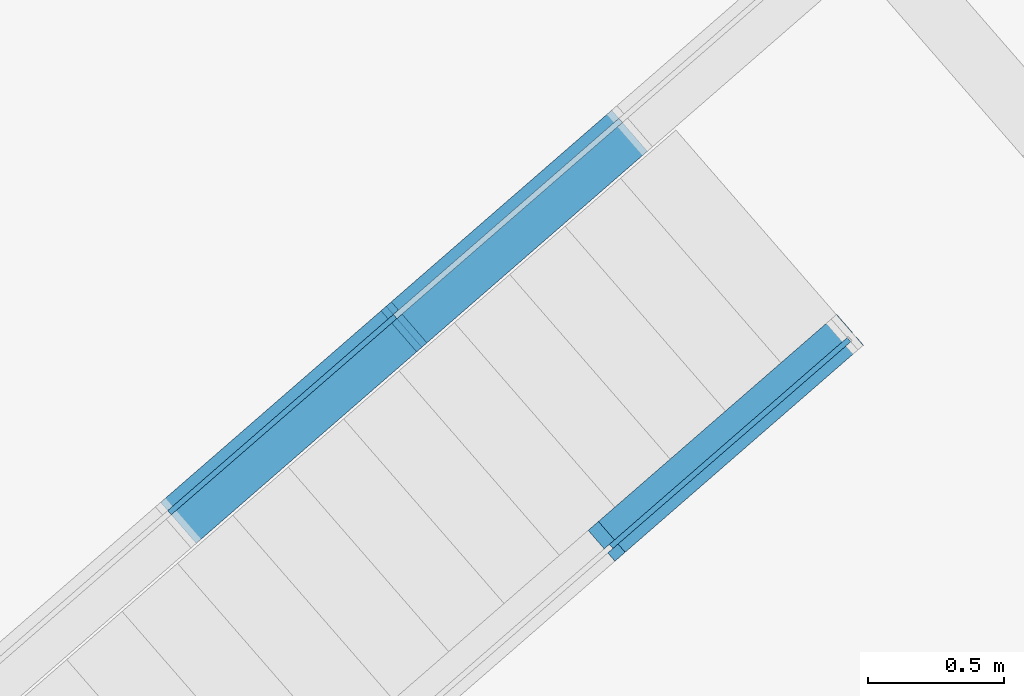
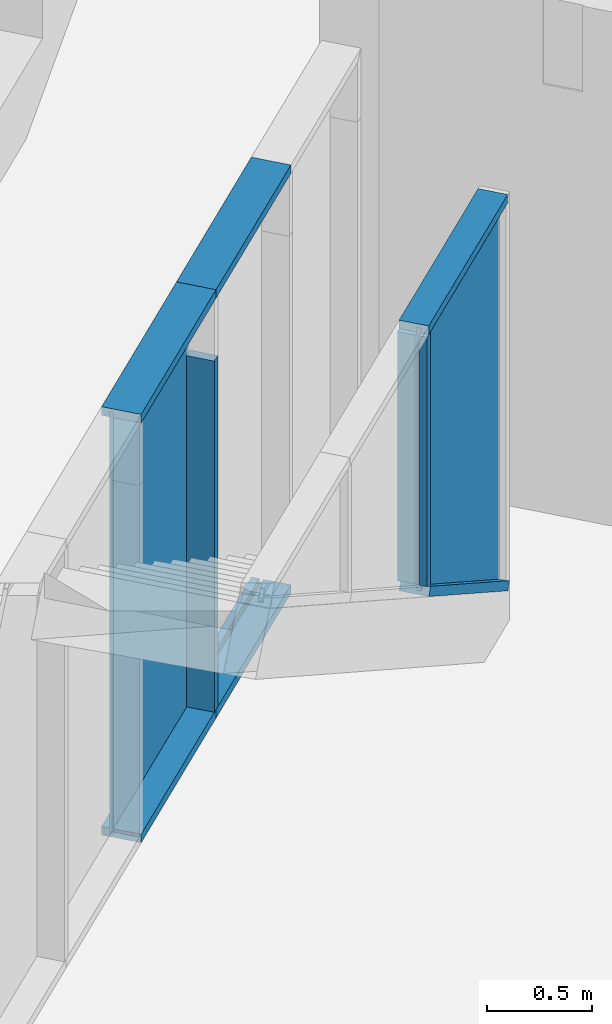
# One storey, part 9 of 124: 10 discrete accessories, 2 elements without a shape of their own.
"""IFC2X3 building model written with IfcOpenShell, lengths in millimetres."""

from ifc_helpers import new_model, entity, si_unit, converted_unit, derived_unit, money_unit, direction, frame, origin_with_axes, place, context, subcontext, project, spatial, polyline, outline, extrude, clip, halfspace, material, material_list, type_object, element, aggregate, save


model = new_model("IFC2X3")

# Units and contexts
model_context = context("Model", 3, precision=1e-05, world=origin_with_axes(), true_north=direction((0.0, 1.0)))
body_context = subcontext(model_context, "Body", "Model", "MODEL_VIEW")
ifc_project = project(units=[si_unit("LENGTHUNIT", "METRE", prefix="MILLI"), si_unit("AREAUNIT", "SQUARE_METRE"), si_unit("VOLUMEUNIT", "CUBIC_METRE"), converted_unit("PLANEANGLEUNIT", "DEGREE", entity("IfcPlaneAngleMeasure", 0.0174532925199), si_unit("PLANEANGLEUNIT", "RADIAN"), dimensions=[0, 0, 0, 0, 0, 0, 0]), si_unit("SOLIDANGLEUNIT", "STERADIAN"), money_unit("EUR"), converted_unit("TIMEUNIT", "Year", entity("IfcTimeMeasure", 31556926.0), si_unit("TIMEUNIT", "SECOND"), dimensions=[0, 0, 1, 0, 0, 0, 0]), si_unit("MASSUNIT", "GRAM", prefix="KILO"), si_unit("THERMODYNAMICTEMPERATUREUNIT", "DEGREE_CELSIUS"), si_unit("LUMINOUSINTENSITYUNIT", "LUMEN"), si_unit("ENERGYUNIT", "JOULE", prefix="MEGA"), derived_unit("THERMALCONDUCTANCEUNIT", [(si_unit("POWERUNIT", "WATT"), 1), (si_unit("LENGTHUNIT", "METRE"), -1), (si_unit("THERMODYNAMICTEMPERATUREUNIT", "KELVIN"), -1)]), derived_unit("SPECIFICHEATCAPACITYUNIT", [(si_unit("ENERGYUNIT", "JOULE"), 1), (si_unit("MASSUNIT", "GRAM", prefix="KILO"), -1), (si_unit("THERMODYNAMICTEMPERATUREUNIT", "KELVIN"), -1)]), derived_unit("MASSDENSITYUNIT", [(si_unit("MASSUNIT", "GRAM", prefix="KILO"), 1), (si_unit("VOLUMEUNIT", "CUBIC_METRE"), -1)])], contexts=[model_context])

# Site, building, storey
site_placement = place(None, origin_with_axes())
site = spatial("IfcSite", under=ifc_project, at=site_placement, Name="Site", CompositionType="ELEMENT")
building_placement = place(site_placement, origin_with_axes())
building = spatial("IfcBuilding", under=site, at=building_placement, Name="Building", CompositionType="ELEMENT")
storey_placement = place(building_placement, frame((0.0, 0.0, -1615.0), z_axis=(0.0, 0.0, 1.0), x_axis=(1.0, 0.0, 0.0)))
storey = spatial("IfcBuildingStorey", under=building, at=storey_placement, Name="0  korrus", CompositionType="ELEMENT", Elevation=-1615.0)

# Curtain wall, discrete accessories
curtain_wall_type_1 = type_object("IfcCurtainWallType", Name="KS-14", PredefinedType="NOTDEFINED")
curtain_wall_1_placement = place(storey_placement, frame((158378.483684, 89491.1525306, -3.95351700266e-05), z_axis=(0.0, 0.0, 1.0), x_axis=(1.0, 0.0, 0.0)))
curtain_wall_1 = element("IfcCurtainWall", 1, at=curtain_wall_1_placement, inside=storey, type_object=curtain_wall_type_1, Name="Klaas-sein")
ifc_material_1 = material(Name="Klaas")
discrete_accessory_type_1 = type_object("IfcDiscreteAccessoryType", Name="Distinct Panel 1100 x 380 x 20")
discrete_accessory_1_placement = place(curtain_wall_1_placement, frame((-830.180537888, -721.6649323, 1533.33337045), z_axis=(0.0, 0.0, 1.0), x_axis=(0.754709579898, 0.656059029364, 0.0)))
discrete_accessory_1 = element("IfcDiscreteAccessory", 2, at=discrete_accessory_1_placement, type_object=discrete_accessory_type_1, material=ifc_material_1, Name="KS-14 klaaspakett", context=body_context, shape_type="SweptSolid", body=[
    extrude(outline(polyline([(-549.999994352, -946.666715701), (550.0, -946.666715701), (550.0, 1513.33338478), (-549.999994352, 1513.33338478), (-549.999994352, -946.666715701)])), frame((0.0, -10.0, 0.0), z_axis=(0.0, 1.0, 0.0), x_axis=(1.0, 0.0, 0.0)), (0.0, 0.0, 1.0), 20.0),
])
discrete_accessory_type_2 = type_object("IfcDiscreteAccessoryType", Name="50 x 200")
discrete_accessory_2_placement = place(curtain_wall_1_placement, frame((-1245.27080683, -1082.49739845, 2500.00007183), z_axis=(0.754709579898, 0.656059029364, 0.0), x_axis=(0.0, 0.0, -1.0)))
discrete_accessory_2 = element("IfcDiscreteAccessory", 3, at=discrete_accessory_2_placement, type_object=discrete_accessory_type_2, Name="KS-14 profiil", context=body_context, shape_type="SweptSolid", body=[
    extrude(outline(polyline([(10.0, 25.0), (-10.0, 25.0), (-10.0, 0.0), (10.0, 0.0), (10.0, 25.0)])), frame((0.0, 0.0, 0.0), z_axis=(0.0, 0.0, 1.0), x_axis=(0.0, -1.0, 0.0)), (0.0, 0.0, 1.0), 1100.0),
    extrude(outline(polyline([(150.0, 50.0), (10.0, 50.0), (10.0, 0.0), (150.0, 0.0), (150.0, 50.0)])), frame((0.0, 0.0, 0.0), z_axis=(0.0, 0.0, 1.0), x_axis=(0.0, -1.0, 0.0)), (0.0, 0.0, 1.0), 1100.0),
    extrude(outline(polyline([(-50.0, 0.0), (-10.0, 0.0), (-10.0, 50.0), (-50.0, 50.0), (-50.0, 0.0)])), frame((0.0, 0.0, 0.0), z_axis=(0.0, 0.0, 1.0), x_axis=(0.0, -1.0, 0.0)), (0.0, 0.0, 1.0), 1100.0),
])
discrete_accessory_3_placement = place(curtain_wall_1_placement, frame((-415.090268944, -360.83246615, 2500.00007183), z_axis=(0.754709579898, 0.656059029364, 0.0), x_axis=(0.0, 0.0, -1.0)))
discrete_accessory_3 = element("IfcDiscreteAccessory", 4, at=discrete_accessory_3_placement, type_object=discrete_accessory_type_2, Name="KS-14 profiil", context=body_context, shape_type="SweptSolid", body=[
    extrude(outline(polyline([(10.0, 25.0), (-10.0, 25.0), (-10.0, 0.0), (10.0, 0.0), (10.0, 25.0)])), frame((0.0, 0.0, 0.0), z_axis=(0.0, 0.0, 1.0), x_axis=(0.0, -1.0, 0.0)), (0.0, 0.0, 1.0), 1100.0),
    extrude(outline(polyline([(150.0, 50.0), (10.0, 50.0), (10.0, 0.0), (150.0, 0.0), (150.0, 50.0)])), frame((0.0, 0.0, 0.0), z_axis=(0.0, 0.0, 1.0), x_axis=(0.0, -1.0, 0.0)), (0.0, 0.0, 1.0), 1100.0),
    extrude(outline(polyline([(-50.0, 0.0), (-10.0, 0.0), (-10.0, 50.0), (-50.0, 50.0), (-50.0, 0.0)])), frame((0.0, 0.0, 0.0), z_axis=(0.0, 0.0, 1.0), x_axis=(0.0, -1.0, 0.0)), (0.0, 0.0, 1.0), 1100.0),
])
discrete_accessory_4_placement = place(curtain_wall_1_placement, frame((-415.090268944, -360.83246615, 0.0), z_axis=(-0.754709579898, -0.656059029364, 0.0), x_axis=(0.0, 0.0, 1.0)))
discrete_accessory_4 = element("IfcDiscreteAccessory", 5, at=discrete_accessory_4_placement, type_object=discrete_accessory_type_2, Name="KS-14 profiil", context=body_context, shape_type="SweptSolid", body=[
    extrude(outline(polyline([(-10.0, -25.0), (10.0, -25.0), (10.0, 0.0), (-10.0, 0.0), (-10.0, -25.0)])), frame((0.0, 0.0, 0.0), z_axis=(0.0, 0.0, 1.0), x_axis=(0.0, 1.0, 0.0)), (0.0, 0.0, 1.0), 1100.0),
    extrude(outline(polyline([(-150.0, -50.0), (-10.0, -50.0), (-10.0, 0.0), (-150.0, 0.0), (-150.0, -50.0)])), frame((0.0, 0.0, 0.0), z_axis=(0.0, 0.0, 1.0), x_axis=(0.0, 1.0, 0.0)), (0.0, 0.0, 1.0), 1100.0),
    extrude(outline(polyline([(50.0, 0.0), (10.0, 0.0), (10.0, -50.0), (50.0, -50.0), (50.0, 0.0)])), frame((0.0, 0.0, 0.0), z_axis=(0.0, 0.0, 1.0), x_axis=(0.0, 1.0, 0.0)), (0.0, 0.0, 1.0), 1100.0),
])
discrete_accessory_5_placement = place(curtain_wall_1_placement, frame((415.090268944, 360.83246615, 0.0), z_axis=(-0.754709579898, -0.656059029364, 0.0), x_axis=(0.0, 0.0, 1.0)))
discrete_accessory_5 = element("IfcDiscreteAccessory", 6, at=discrete_accessory_5_placement, type_object=discrete_accessory_type_2, Name="KS-14 profiil", context=body_context, shape_type="SweptSolid", body=[
    extrude(outline(polyline([(-9.99999999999, -25.0), (10.0, -25.0), (10.0, 0.0), (-9.99999999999, 0.0), (-9.99999999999, -25.0)])), frame((0.0, 0.0, 0.0), z_axis=(0.0, 0.0, 1.0), x_axis=(0.0, 1.0, 0.0)), (0.0, 0.0, 1.0), 1100.0),
    extrude(outline(polyline([(-150.0, -50.0), (-9.99999999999, -50.0), (-9.99999999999, 0.0), (-150.0, 0.0), (-150.0, -50.0)])), frame((0.0, 0.0, 0.0), z_axis=(0.0, 0.0, 1.0), x_axis=(0.0, 1.0, 0.0)), (0.0, 0.0, 1.0), 1100.0),
    extrude(outline(polyline([(50.0, 0.0), (10.0, 0.0), (10.0, -50.0), (50.0, -50.0), (50.0, 0.0)])), frame((0.0, 0.0, 0.0), z_axis=(0.0, 0.0, 1.0), x_axis=(0.0, 1.0, 0.0)), (0.0, 0.0, 1.0), 1100.0),
])
ifc_material_2 = material(Name="Aluminium MUST")
ifc_material_list = material_list([ifc_material_2, ifc_material_2])
discrete_accessory_6_placement = place(curtain_wall_1_placement, frame((-415.090268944, -360.83246615, 0.0), z_axis=(0.0, 0.0, 1.0), x_axis=(0.754709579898, 0.656059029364, 0.0)))
discrete_accessory_6 = element("IfcDiscreteAccessory", 7, at=discrete_accessory_6_placement, type_object=discrete_accessory_type_2, material=ifc_material_list, Name="KS-14 profiil", context=body_context, shape_type="SweptSolid", body=[
    extrude(outline(polyline([(-12.3071492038, -23.9485715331), (79.5411149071, -129.607912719), (117.276593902, -96.8049612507), (25.4283297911, 8.85437993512), (-12.3071492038, -23.9485715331)])), frame((0.0, 0.0, 50.0), z_axis=(0.0, 0.0, 1.0), x_axis=(0.754709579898, -0.656059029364, 0.0)), (0.0, 0.0, 1.0), 2050.00003954),
    extrude(outline(polyline([(-25.4283297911, -8.85437993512), (12.3071492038, 23.9485715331), (-13.9352119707, 54.136954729), (-51.6706909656, 21.3340032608), (-25.4283297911, -8.85437993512)])), frame((0.0, 0.0, 50.0), z_axis=(0.0, 0.0, 1.0), x_axis=(0.754709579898, -0.656059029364, 0.0)), (0.0, 0.0, 1.0), 2050.00003954),
])
aggregate(curtain_wall_1, [discrete_accessory_1, discrete_accessory_2, discrete_accessory_3, discrete_accessory_4, discrete_accessory_5, discrete_accessory_6])

curtain_wall_type_2 = type_object("IfcCurtainWallType", Name="KS-21", PredefinedType="NOTDEFINED")
curtain_wall_2_placement = place(storey_placement, frame((156960.91707, 86721.8655907, 170.75), z_axis=(0.0, 0.0, 1.0), x_axis=(1.0, 0.0, 0.0)))
curtain_wall_2 = element("IfcCurtainWall", 8, at=curtain_wall_2_placement, inside=storey, type_object=curtain_wall_type_2, Name="Klaas-sein")
discrete_accessory_type_3 = type_object("IfcDiscreteAccessoryType", Name="Distinct Panel 1160 x 1536 x 20")
discrete_accessory_7_placement = place(curtain_wall_2_placement, frame((2235.19831448, 1943.02825256, 1356.09187085), z_axis=(0.0, 0.0, 1.0), x_axis=(-0.75470957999, -0.656059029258, 0.0)))
discrete_accessory_7 = element("IfcDiscreteAccessory", 9, at=discrete_accessory_7_placement, type_object=discrete_accessory_type_3, material=ifc_material_1, Name="KS-21 klaaspakett", context=body_context, shape_type="SweptSolid", body=[
    extrude(outline(polyline([(-580.000009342, -953.158153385), (580.000000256, -953.158153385), (580.000000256, 582.378543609), (-580.000009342, 1316.59859402), (-580.000009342, -953.158153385)])), frame((0.0, -10.0, 0.0), z_axis=(0.0, 1.0, 0.0), x_axis=(1.0, 0.0, 0.0)), (0.0, 0.0, 1.0), 20.0),
])
discrete_accessory_type_4 = type_object("IfcDiscreteAccessoryType", Name="50 x 150")
discrete_accessory_8_placement = place(curtain_wall_2_placement, frame((1797.46675809, 1562.51401559, 750.043751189), z_axis=(0.637704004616, 0.554347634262, -0.534819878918), x_axis=(0.403633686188, 0.350873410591, 0.844966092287)))
discrete_accessory_8 = element("IfcDiscreteAccessory", 10, at=discrete_accessory_8_placement, type_object=discrete_accessory_type_4, material=ifc_material_2, Name="KS-21 profiil", context=body_context, shape_type="SweptSolid", body=[
    extrude(outline(polyline([(-10.0, -25.0), (9.99999999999, -25.0), (9.99999999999, -50.0), (50.0, -50.0), (50.0, 0.0), (-100.0, 0.0), (-100.0, -50.0), (-10.0, -50.0), (-10.0, -25.0)])), frame((0.0, 0.0, -1.20698473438e-06), z_axis=(0.0, 0.0, 1.0), x_axis=(0.0, 1.0, 0.0)), (0.0, 0.0, 1.0), 1372.83618115),
])
discrete_accessory_9_placement = place(curtain_wall_2_placement, frame((1797.46675809, 1562.51401559, 750.043751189), z_axis=(0.0, 0.0, 1.0), x_axis=(-0.75470957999, -0.656059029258, 0.0)))
discrete_accessory_9 = element("IfcDiscreteAccessory", 11, at=discrete_accessory_9_placement, type_object=discrete_accessory_type_4, material=ifc_material_list, Name="KS-21 profiil", context=body_context, shape_type="Clipping", body=[
    clip(extrude(outline(polyline([(-84.4736424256, 59.0694822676), (-25.4283297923, -8.85437993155), (12.3071492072, 23.9485715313), (-46.7381634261, 91.8724337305), (-84.4736424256, 59.0694822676)])), frame((0.0, 0.0, 43.3502638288), z_axis=(0.0, 0.0, 1.0), x_axis=(-0.75470957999, 0.656059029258, 0.0)), (0.0, 0.0, 1.0), 1485.85600819), halfspace(frame((-26.7409939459, 0.0, 42.2483046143), z_axis=(-0.534819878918, 0.0, 0.844966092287), x_axis=(0.0, -1.0, 0.0)), True)),
    clip(extrude(outline(polyline([(51.6706909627, -21.3340032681), (25.4283297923, 8.85437993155), (-12.3071492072, -23.9485715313), (13.9352119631, -54.136954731), (51.6706909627, -21.3340032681)])), frame((0.0, 0.0, 43.3502638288), z_axis=(0.0, 0.0, 1.0), x_axis=(-0.75470957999, 0.656059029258, 0.0)), (0.0, 0.0, 1.0), 1485.85600819), halfspace(frame((-26.7409939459, 0.0, 42.2483046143), z_axis=(-0.534819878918, 0.0, 0.844966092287), x_axis=(0.0, -1.0, 0.0)), True)),
])
discrete_accessory_10_placement = place(curtain_wall_2_placement, frame((2672.92987088, 2323.54248953, 2329.25002321), z_axis=(-0.75470957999, -0.656059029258, 0.0), x_axis=(0.0, 0.0, -1.0)))
discrete_accessory_10 = element("IfcDiscreteAccessory", 12, at=discrete_accessory_10_placement, type_object=discrete_accessory_type_4, material=ifc_material_2, Name="KS-21 profiil", context=body_context, shape_type="SweptSolid", body=[
    extrude(outline(polyline([(10.0, 25.0), (-9.99999999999, 25.0), (-9.99999999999, 50.0), (-50.0, 50.0), (-50.0, 0.0), (100.0, 0.0), (100.0, 50.0), (10.0, 50.0), (10.0, 25.0)])), frame((0.0, 0.0, -1.07091295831e-05), z_axis=(0.0, 0.0, 1.0), x_axis=(0.0, -1.0, 0.0)), (0.0, 0.0, 1.0), 1160.00001071),
])
aggregate(curtain_wall_2, [discrete_accessory_7, discrete_accessory_8, discrete_accessory_9, discrete_accessory_10])

save(model, "model.ifc")
